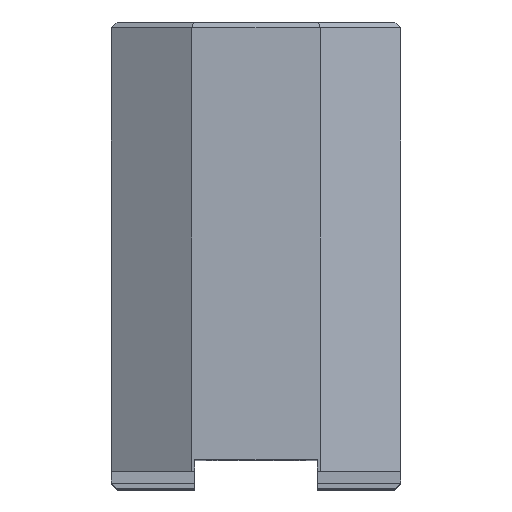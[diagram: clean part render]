
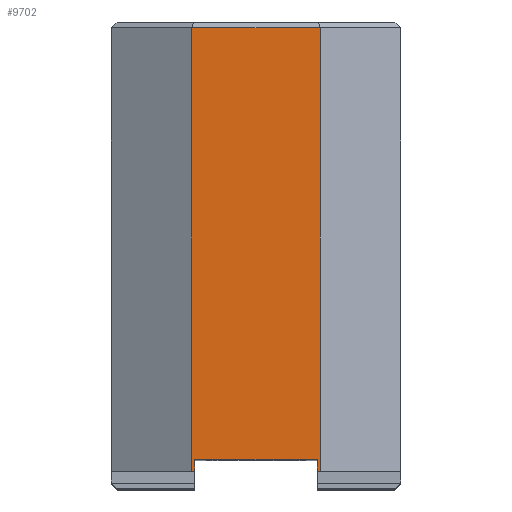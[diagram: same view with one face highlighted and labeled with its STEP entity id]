
A CAD part, top view. The second image highlights one B-rep face of the part: STEP entity #9702.
In plain terms, the highlighted planar face has unit normal (0, 0, 1).
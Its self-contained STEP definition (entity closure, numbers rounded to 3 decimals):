
#46=FACE_OUTER_BOUND('',#618,.T.);
#618=EDGE_LOOP('',(#6588,#6589,#6590,#6591,#6592,#6593,#6594,#6595));
#1196=LINE('',#13472,#2606);
#1201=LINE('',#13483,#2611);
#1207=LINE('',#13495,#2617);
#1413=LINE('',#13906,#2823);
#1485=LINE('',#14051,#2895);
#1486=LINE('',#14052,#2896);
#1487=LINE('',#14054,#2897);
#1488=LINE('',#14055,#2898);
#2606=VECTOR('',#10887,10.);
#2611=VECTOR('',#10894,10.);
#2617=VECTOR('',#10904,10.);
#2823=VECTOR('',#11112,10.);
#2895=VECTOR('',#11188,10.);
#2896=VECTOR('',#11189,10.);
#2897=VECTOR('',#11190,10.);
#2898=VECTOR('',#11191,10.);
#4015=VERTEX_POINT('',#13469);
#4016=VERTEX_POINT('',#13471);
#4020=VERTEX_POINT('',#13480);
#4021=VERTEX_POINT('',#13482);
#4025=VERTEX_POINT('',#13494);
#4229=VERTEX_POINT('',#13904);
#4300=VERTEX_POINT('',#14050);
#4301=VERTEX_POINT('',#14053);
#4870=EDGE_CURVE('',#4016,#4015,#1196,.T.);
#4875=EDGE_CURVE('',#4021,#4020,#1201,.T.);
#4881=EDGE_CURVE('',#4021,#4025,#1207,.T.);
#5087=EDGE_CURVE('',#4020,#4229,#1413,.T.);
#5159=EDGE_CURVE('',#4229,#4300,#1485,.T.);
#5160=EDGE_CURVE('',#4300,#4016,#1486,.T.);
#5161=EDGE_CURVE('',#4015,#4301,#1487,.T.);
#5162=EDGE_CURVE('',#4025,#4301,#1488,.T.);
#6588=ORIENTED_EDGE('',*,*,#4875,.T.);
#6589=ORIENTED_EDGE('',*,*,#5087,.T.);
#6590=ORIENTED_EDGE('',*,*,#5159,.T.);
#6591=ORIENTED_EDGE('',*,*,#5160,.T.);
#6592=ORIENTED_EDGE('',*,*,#4870,.T.);
#6593=ORIENTED_EDGE('',*,*,#5161,.T.);
#6594=ORIENTED_EDGE('',*,*,#5162,.F.);
#6595=ORIENTED_EDGE('',*,*,#4881,.F.);
#9136=PLANE('',#10297);
#9702=ADVANCED_FACE('',(#46),#9136,.T.);
#10297=AXIS2_PLACEMENT_3D('',#14049,#11186,#11187);
#10887=DIRECTION('',(1.,0.,0.));
#10894=DIRECTION('',(1.,0.,0.));
#10904=DIRECTION('',(0.,1.,0.));
#11112=DIRECTION('',(0.,1.,0.));
#11186=DIRECTION('center_axis',(0.,0.,1.));
#11187=DIRECTION('ref_axis',(1.,0.,0.));
#11188=DIRECTION('',(1.,0.,0.));
#11189=DIRECTION('',(0.,-1.,0.));
#11190=DIRECTION('',(0.,1.,0.));
#11191=DIRECTION('',(1.,0.,0.));
#13469=CARTESIAN_POINT('',(11.,3.,65.));
#13471=CARTESIAN_POINT('',(10.5,3.,65.));
#13472=CARTESIAN_POINT('',(-7.125,3.,65.));
#13480=CARTESIAN_POINT('',(-10.5,3.,65.));
#13482=CARTESIAN_POINT('',(-11.,3.,65.));
#13483=CARTESIAN_POINT('',(-7.125,3.,65.));
#13494=CARTESIAN_POINT('',(-11.,79.,65.));
#13495=CARTESIAN_POINT('',(-11.,0.,65.));
#13904=CARTESIAN_POINT('',(-10.5,5.,65.));
#13906=CARTESIAN_POINT('',(-10.5,0.,65.));
#14049=CARTESIAN_POINT('Origin',(-11.,0.,65.));
#14050=CARTESIAN_POINT('',(10.5,5.,65.));
#14051=CARTESIAN_POINT('',(-10.75,5.,65.));
#14052=CARTESIAN_POINT('',(10.5,2.5,65.));
#14053=CARTESIAN_POINT('',(11.,79.,65.));
#14054=CARTESIAN_POINT('',(11.,0.,65.));
#14055=CARTESIAN_POINT('',(-5.5,79.,65.));
